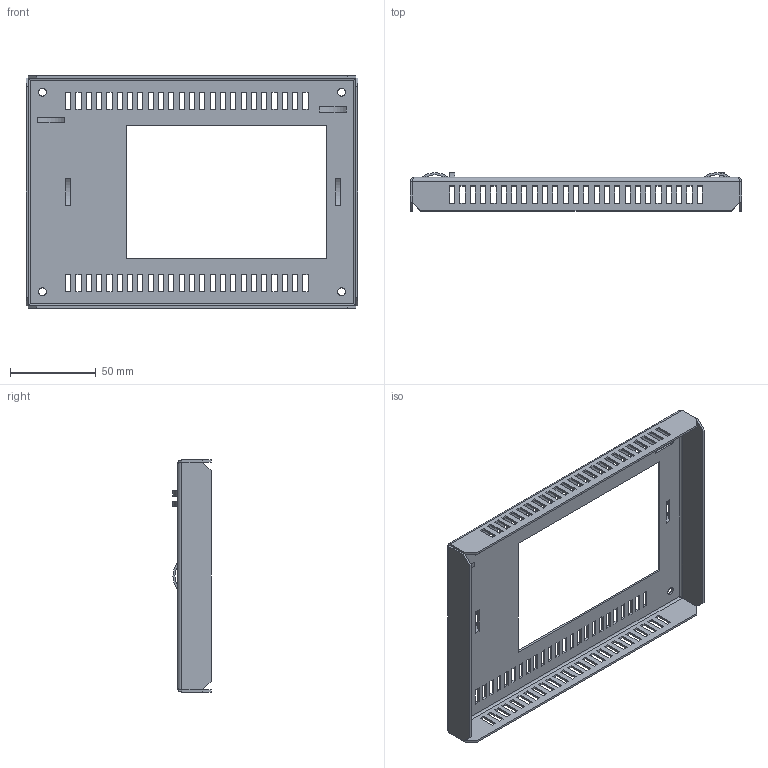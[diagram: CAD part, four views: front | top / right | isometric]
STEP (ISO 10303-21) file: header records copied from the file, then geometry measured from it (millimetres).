
FILE_DESCRIPTION((''),'2;1');
FILE_NAME('2033263_ASM','2022-10-13T14:12:31',('j.rink'),(''),'CREO PARAMETRIC BY PTC INC, 2019292','CREO PARAMETRIC BY PTC INC, 2019292','');
FILE_SCHEMA(('AUTOMOTIVE_DESIGN { 1 0 10303 214 1 1 1 1 }'));
Length unit declared in the file: millimetre
Products named in the file (2): 2017948_AF0; 2033263_ASM
Assembly tree (1 placements, depth 2):
  2033263_ASM
    2017948_AF0
Bounding box: 193 x 22.2 x 135 mm (x, y, z)
Volume: 30301.4 mm3; surface area: 55357.3 mm2
Topology: 1 solids, 1 shells, 509 faces, 1487 edges, 994 vertices
Faces by surface type: plane 475, cylinder 26, bspline 8
Entity records: 25986 total; most frequent: CARTESIAN_POINT 3460, ORIENTED_EDGE 2932, DIRECTION 2525, PRESENTATION_STYLE_ASSIGNMENT 2002, STYLED_ITEM 2002, CURVE_STYLE 1492, EDGE_CURVE 1466, VECTOR 1435
